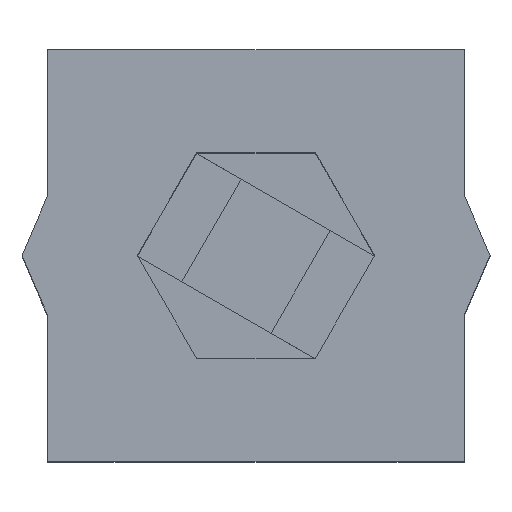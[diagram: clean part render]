
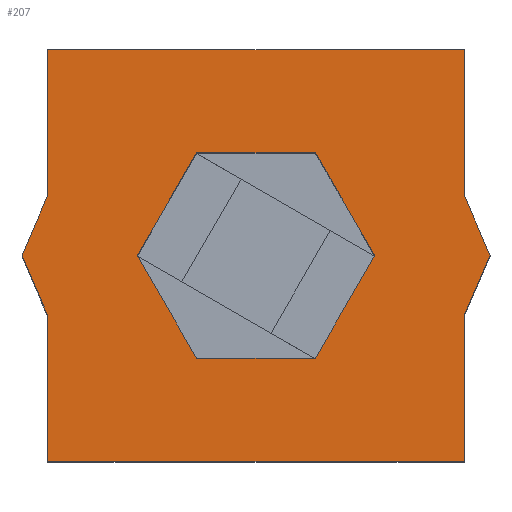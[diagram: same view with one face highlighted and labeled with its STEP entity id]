
A CAD part, top view. The second image highlights one B-rep face of the part: STEP entity #207.
In plain terms, the highlighted planar face has unit normal (0, 0, 1).
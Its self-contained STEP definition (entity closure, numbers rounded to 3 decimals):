
#6 = ORIENTED_EDGE ( 'NONE', *, *, #94, .T. ) ;
#13 = EDGE_CURVE ( 'NONE', #547, #22, #81, .T. ) ;
#14 = ORIENTED_EDGE ( 'NONE', *, *, #577, .F. ) ;
#20 = DIRECTION ( 'NONE',  ( -0.5, 0.866, 0. ) ) ;
#22 = VERTEX_POINT ( 'NONE', #77 ) ;
#27 = AXIS2_PLACEMENT_3D ( 'NONE', #487, #551, #844 ) ;
#33 = CARTESIAN_POINT ( 'NONE',  ( -42.162, -8.479, 45. ) ) ;
#40 = LINE ( 'NONE', #457, #669 ) ;
#51 = LINE ( 'NONE', #62, #482 ) ;
#56 = LINE ( 'NONE', #270, #245 ) ;
#57 = ORIENTED_EDGE ( 'NONE', *, *, #251, .T. ) ;
#62 = CARTESIAN_POINT ( 'NONE',  ( -17.838, 7., 45. ) ) ;
#64 = DIRECTION ( 'NONE',  ( -0.394, -0.919, 0. ) ) ;
#68 = LINE ( 'NONE', #345, #642 ) ;
#69 = ORIENTED_EDGE ( 'NONE', *, *, #13, .T. ) ;
#77 = CARTESIAN_POINT ( 'NONE',  ( -16.347, -5., 45. ) ) ;
#80 = EDGE_CURVE ( 'NONE', #320, #213, #178, .T. ) ;
#81 = LINE ( 'NONE', #369, #866 ) ;
#91 = LINE ( 'NONE', #650, #362 ) ;
#94 = EDGE_CURVE ( 'NONE', #357, #870, #40, .T. ) ;
#98 = LINE ( 'NONE', #433, #792 ) ;
#109 = VERTEX_POINT ( 'NONE', #878 ) ;
#121 = LINE ( 'NONE', #837, #496 ) ;
#136 = CARTESIAN_POINT ( 'NONE',  ( -26.536, 1., 45. ) ) ;
#151 = EDGE_CURVE ( 'NONE', #401, #243, #660, .T. ) ;
#152 = CARTESIAN_POINT ( 'NONE',  ( -42.162, 7., 45. ) ) ;
#159 = EDGE_LOOP ( 'NONE', ( #69, #495, #723, #57, #6, #259, #470, #227, #198, #783 ) ) ;
#169 = EDGE_CURVE ( 'NONE', #432, #237, #56, .T. ) ;
#178 = LINE ( 'NONE', #33, #728 ) ;
#198 = ORIENTED_EDGE ( 'NONE', *, *, #151, .T. ) ;
#201 = CARTESIAN_POINT ( 'NONE',  ( -17.838, -17., 45. ) ) ;
#207 = ADVANCED_FACE ( 'NONE', ( #336, #620 ), #350, .T. ) ;
#213 = VERTEX_POINT ( 'NONE', #903 ) ;
#217 = EDGE_CURVE ( 'NONE', #243, #547, #267, .T. ) ;
#226 = CARTESIAN_POINT ( 'NONE',  ( -36.928, -5., 45. ) ) ;
#227 = ORIENTED_EDGE ( 'NONE', *, *, #571, .T. ) ;
#236 = CARTESIAN_POINT ( 'NONE',  ( -17.838, 7., 45. ) ) ;
#237 = VERTEX_POINT ( 'NONE', #627 ) ;
#238 = DIRECTION ( 'NONE',  ( -0.393, 0.919, 0. ) ) ;
#241 = EDGE_LOOP ( 'NONE', ( #339, #516, #668, #427, #14, #869 ) ) ;
#243 = VERTEX_POINT ( 'NONE', #476 ) ;
#245 = VECTOR ( 'NONE', #687, 1000. ) ;
#251 = EDGE_CURVE ( 'NONE', #821, #357, #51, .T. ) ;
#259 = ORIENTED_EDGE ( 'NONE', *, *, #697, .T. ) ;
#262 = DIRECTION ( 'NONE',  ( 0., 1., 0. ) ) ;
#267 = LINE ( 'NONE', #201, #699 ) ;
#270 = CARTESIAN_POINT ( 'NONE',  ( -26.536, -11., 45. ) ) ;
#279 = EDGE_CURVE ( 'NONE', #900, #524, #68, .T. ) ;
#280 = CARTESIAN_POINT ( 'NONE',  ( -33.464, -11., 45. ) ) ;
#288 = LINE ( 'NONE', #567, #555 ) ;
#315 = DIRECTION ( 'NONE',  ( 1., 0., 0. ) ) ;
#320 = VERTEX_POINT ( 'NONE', #708 ) ;
#331 = EDGE_CURVE ( 'NONE', #524, #432, #288, .T. ) ;
#336 = FACE_BOUND ( 'NONE', #241, .T. ) ;
#339 = ORIENTED_EDGE ( 'NONE', *, *, #331, .F. ) ;
#345 = CARTESIAN_POINT ( 'NONE',  ( -36.928, -5., 45. ) ) ;
#350 = PLANE ( 'NONE',  #27 ) ;
#357 = VERTEX_POINT ( 'NONE', #152 ) ;
#362 = VECTOR ( 'NONE', #20, 1000. ) ;
#365 = CARTESIAN_POINT ( 'NONE',  ( -33.464, 1., 45. ) ) ;
#369 = CARTESIAN_POINT ( 'NONE',  ( -16.347, -5., 45. ) ) ;
#392 = VECTOR ( 'NONE', #714, 1000. ) ;
#401 = VERTEX_POINT ( 'NONE', #610 ) ;
#427 = ORIENTED_EDGE ( 'NONE', *, *, #859, .F. ) ;
#432 = VERTEX_POINT ( 'NONE', #596 ) ;
#433 = CARTESIAN_POINT ( 'NONE',  ( -26.536, 1., 45. ) ) ;
#442 = LINE ( 'NONE', #672, #840 ) ;
#457 = CARTESIAN_POINT ( 'NONE',  ( -42.162, 7., 45. ) ) ;
#470 = ORIENTED_EDGE ( 'NONE', *, *, #80, .T. ) ;
#476 = CARTESIAN_POINT ( 'NONE',  ( -17.838, -17., 45. ) ) ;
#479 = EDGE_CURVE ( 'NONE', #22, #109, #442, .T. ) ;
#482 = VECTOR ( 'NONE', #691, 1000. ) ;
#487 = CARTESIAN_POINT ( 'NONE',  ( 0., 0., 45. ) ) ;
#495 = ORIENTED_EDGE ( 'NONE', *, *, #479, .T. ) ;
#496 = VECTOR ( 'NONE', #830, 1000. ) ;
#507 = DIRECTION ( 'NONE',  ( 0.395, 0.919, 0. ) ) ;
#516 = ORIENTED_EDGE ( 'NONE', *, *, #279, .F. ) ;
#519 = DIRECTION ( 'NONE',  ( -1., 0., 0. ) ) ;
#524 = VERTEX_POINT ( 'NONE', #280 ) ;
#525 = VECTOR ( 'NONE', #315, 1000. ) ;
#547 = VERTEX_POINT ( 'NONE', #784 ) ;
#551 = DIRECTION ( 'NONE',  ( 0., 0., 1. ) ) ;
#555 = VECTOR ( 'NONE', #786, 1000. ) ;
#567 = CARTESIAN_POINT ( 'NONE',  ( -33.464, -11., 45. ) ) ;
#571 = EDGE_CURVE ( 'NONE', #213, #401, #578, .T. ) ;
#577 = EDGE_CURVE ( 'NONE', #237, #793, #91, .T. ) ;
#578 = LINE ( 'NONE', #850, #392 ) ;
#596 = CARTESIAN_POINT ( 'NONE',  ( -26.536, -11., 45. ) ) ;
#600 = CARTESIAN_POINT ( 'NONE',  ( -33.464, 1., 45. ) ) ;
#606 = CARTESIAN_POINT ( 'NONE',  ( -42.162, -17., 45. ) ) ;
#610 = CARTESIAN_POINT ( 'NONE',  ( -42.162, -17., 45. ) ) ;
#613 = CARTESIAN_POINT ( 'NONE',  ( -42.162, -1.521, 45. ) ) ;
#617 = LINE ( 'NONE', #613, #686 ) ;
#620 = FACE_OUTER_BOUND ( 'NONE', #159, .T. ) ;
#627 = CARTESIAN_POINT ( 'NONE',  ( -23.072, -5., 45. ) ) ;
#630 = DIRECTION ( 'NONE',  ( 0.5, -0.866, 0. ) ) ;
#642 = VECTOR ( 'NONE', #630, 1000. ) ;
#650 = CARTESIAN_POINT ( 'NONE',  ( -23.072, -5., 45. ) ) ;
#653 = VERTEX_POINT ( 'NONE', #600 ) ;
#660 = LINE ( 'NONE', #606, #525 ) ;
#668 = ORIENTED_EDGE ( 'NONE', *, *, #865, .F. ) ;
#669 = VECTOR ( 'NONE', #727, 1000. ) ;
#672 = CARTESIAN_POINT ( 'NONE',  ( -16.347, -5., 45. ) ) ;
#673 = DIRECTION ( 'NONE',  ( 0.394, -0.919, 0. ) ) ;
#686 = VECTOR ( 'NONE', #64, 1000. ) ;
#687 = DIRECTION ( 'NONE',  ( 0.5, 0.866, 0. ) ) ;
#691 = DIRECTION ( 'NONE',  ( -1., 0., 0. ) ) ;
#697 = EDGE_CURVE ( 'NONE', #870, #320, #617, .T. ) ;
#699 = VECTOR ( 'NONE', #262, 1000. ) ;
#708 = CARTESIAN_POINT ( 'NONE',  ( -43.653, -5., 45. ) ) ;
#712 = VECTOR ( 'NONE', #791, 1000. ) ;
#714 = DIRECTION ( 'NONE',  ( 0., -1., 0. ) ) ;
#723 = ORIENTED_EDGE ( 'NONE', *, *, #796, .T. ) ;
#727 = DIRECTION ( 'NONE',  ( 0., -1., 0. ) ) ;
#728 = VECTOR ( 'NONE', #673, 1000. ) ;
#783 = ORIENTED_EDGE ( 'NONE', *, *, #217, .T. ) ;
#784 = CARTESIAN_POINT ( 'NONE',  ( -17.838, -8.468, 45. ) ) ;
#786 = DIRECTION ( 'NONE',  ( 1., 0., 0. ) ) ;
#791 = DIRECTION ( 'NONE',  ( -0.5, -0.866, 0. ) ) ;
#792 = VECTOR ( 'NONE', #519, 1000. ) ;
#793 = VERTEX_POINT ( 'NONE', #136 ) ;
#796 = EDGE_CURVE ( 'NONE', #109, #821, #121, .T. ) ;
#801 = LINE ( 'NONE', #365, #712 ) ;
#821 = VERTEX_POINT ( 'NONE', #236 ) ;
#830 = DIRECTION ( 'NONE',  ( 0., 1., 0. ) ) ;
#837 = CARTESIAN_POINT ( 'NONE',  ( -17.838, -1.513, 45. ) ) ;
#840 = VECTOR ( 'NONE', #238, 1000. ) ;
#844 = DIRECTION ( 'NONE',  ( 1., 0., 0. ) ) ;
#850 = CARTESIAN_POINT ( 'NONE',  ( -42.162, -8.479, 45. ) ) ;
#859 = EDGE_CURVE ( 'NONE', #793, #653, #98, .T. ) ;
#865 = EDGE_CURVE ( 'NONE', #653, #900, #801, .T. ) ;
#866 = VECTOR ( 'NONE', #507, 1000. ) ;
#869 = ORIENTED_EDGE ( 'NONE', *, *, #169, .F. ) ;
#870 = VERTEX_POINT ( 'NONE', #919 ) ;
#878 = CARTESIAN_POINT ( 'NONE',  ( -17.838, -1.513, 45. ) ) ;
#900 = VERTEX_POINT ( 'NONE', #226 ) ;
#903 = CARTESIAN_POINT ( 'NONE',  ( -42.162, -8.479, 45. ) ) ;
#919 = CARTESIAN_POINT ( 'NONE',  ( -42.162, -1.521, 45. ) ) ;
